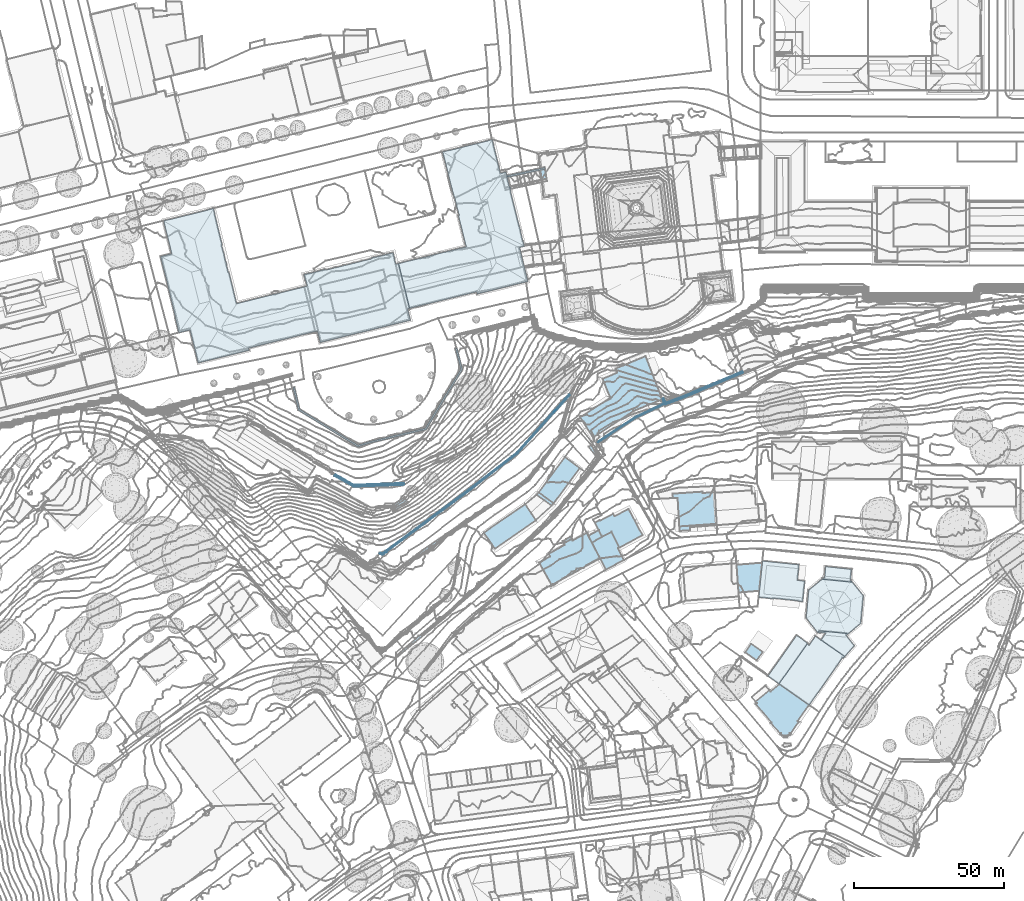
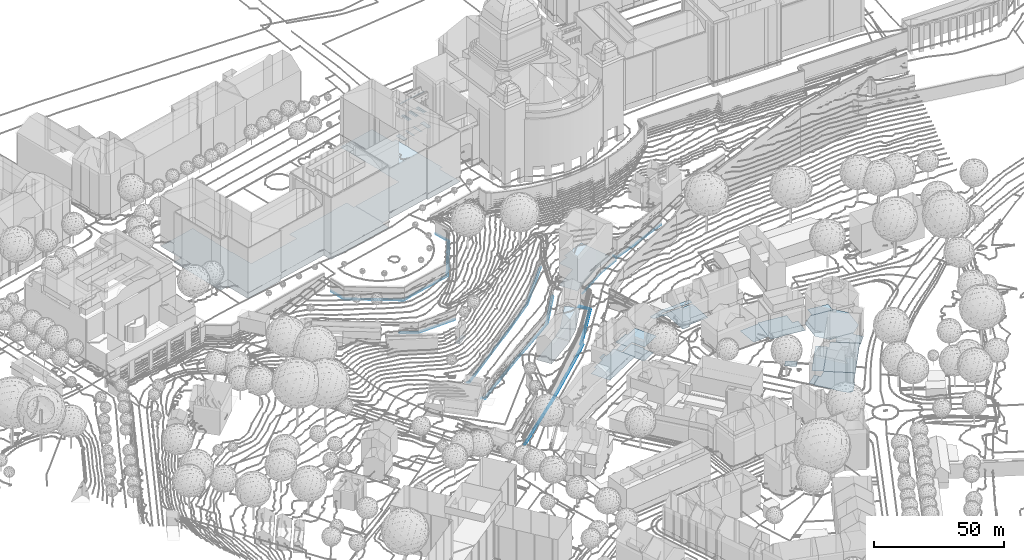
# Not in any storey, part 13 of 494: 21 footings.
"""IFC2X3 model written with IfcOpenShell, lengths in metres."""

from ifc_helpers import new_model, si_unit, frame, origin_with_axes, place, context, subcontext, project, faceted_brep, element, save


model = new_model("IFC2X3")

# Units and contexts
model_context = context("Model", 3, precision=1e-05, world=origin_with_axes())
body_context = subcontext(model_context, "Body", "Model", "MODEL_VIEW")
ifc_project = project(units=[si_unit("AREAUNIT", "SQUARE_METRE"), si_unit("LENGTHUNIT", "METRE")], contexts=[model_context])

# Footings
footing_1_placement = place(None, frame((211.8297320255, 101.9383160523, 526.7541), z_axis=(0.0, 0.0, 1.0), x_axis=(1.0, 0.0, 0.0)))
element("IfcFooting", 1, at=footing_1_placement, Name="Floor 0", PredefinedType="STRIP_FOOTING", context=body_context, shape_type="Brep", body=[
    faceted_brep([(280.5030000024, 297.0234000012, 13.395), (282.3080000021, 292.683600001, 13.395), (281.4759999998, 292.504900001, 13.395), (281.3340000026, 297.2021000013, 13.395), (286.9020000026, 298.4032999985, 21.7082), (287.2400000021, 293.7509999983, 21.7082), (286.268000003, 298.2666000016, 21.7082), (287.875, 293.8887000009, 21.7082), (285.6960000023, 298.1435000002, 21.4603), (286.6689999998, 293.6268999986, 21.4603), (287.4730000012, 298.5263999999, 21.4603), (288.4460000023, 294.0126999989, 21.4603), (288.0100000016, 298.6425999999, 13.395), (290.6510000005, 294.4814000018, 13.395), (288.9840000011, 294.1220999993, 13.395), (289.932, 299.0555999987, 13.395), (279.9660000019, 296.9081999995, 21.4603), (280.3690000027, 292.2646000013, 21.7082), (279.3949999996, 296.7842000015, 21.7082), (280.9409999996, 292.3887000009, 21.4603), (279.7349999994, 292.1268999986, 21.7082), (278.7609999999, 296.6484000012, 21.7082), (279.1630000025, 292.003899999, 21.4603), (278.1889999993, 296.5243999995, 21.4603), (275.5940000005, 295.9657999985, 13.395), (277.6540000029, 296.4092000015, 13.395), (276.6600000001, 292.2723999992, 13.395), (278.6270000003, 291.8905999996, 13.395), (276.8790000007, 291.5137000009, 13.395), (283.0760000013, 297.5780999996, 21.7082), (284.0490000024, 293.0604999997, 21.7082), (282.4409999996, 297.441399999, 21.7082), (283.4160000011, 292.9237999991, 21.7082), (282.8450000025, 292.8007999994, 21.4603), (281.8709999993, 297.3183000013, 21.4603), (283.6469999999, 297.7012000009, 21.4603), (284.6209999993, 293.1845999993, 21.4603), (284.1840000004, 297.817400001, 13.395), (286.1339999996, 293.5088, 13.395), (285.1579999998, 293.2978000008, 13.395), (285.1590000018, 298.0273000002, 13.395)], [[[0, 1, 2]], [[1, 0, 3]], [[4, 5, 6]], [[5, 4, 7]], [[6, 5, 8]], [[9, 8, 5]], [[10, 7, 4]], [[7, 10, 11]], [[12, 13, 14]], [[13, 12, 15]], [[16, 17, 18]], [[17, 16, 19]], [[18, 20, 21]], [[20, 18, 17]], [[21, 22, 23]], [[22, 21, 20]], [[24, 25, 26]], [[27, 28, 26]], [[26, 25, 27]], [[29, 30, 31]], [[32, 31, 30]], [[31, 33, 34]], [[33, 31, 32]], [[35, 30, 29]], [[30, 35, 36]], [[37, 38, 39]], [[38, 37, 40]]]),
])
footing_2_placement = place(None, frame((211.8297320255, 101.9383160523, 526.7541), z_axis=(0.0, 0.0, 1.0), x_axis=(1.0, 0.0, 0.0)))
element("IfcFooting", 2, at=footing_2_placement, Name="Floor 4", PredefinedType="STRIP_FOOTING", context=body_context, shape_type="Brep", body=[
    faceted_brep([(284.7970000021, 194.6561999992, -16.5874), (284.3350000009, 195.1387000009, -16.5874), (295.9990000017, 209.7382999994, -16.5874), (276.4550000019, 188.9882999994, -16.5874), (295.4700000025, 210.1308000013, -16.5874), (261.8630000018, 179.3418000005, -16.5874), (261.4940000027, 179.8867000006, -16.5874), (276.0890000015, 189.5351000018, -16.5874), (246.1209999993, 169.2197000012, -16.5874), (246.507000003, 168.6854999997, -16.5874), (238.7470000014, 162.8436999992, -16.5874), (238.8200000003, 163.7226000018, -16.5874), (237.4409999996, 164.2217000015, -16.5874), (237.9189999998, 164.6748000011, -16.5874)], [[[0, 1, 2]], [[0, 3, 1]], [[1, 4, 2]], [[5, 6, 7]], [[7, 3, 5]], [[3, 7, 1]], [[8, 6, 9]], [[9, 10, 8]], [[11, 12, 13]], [[12, 11, 10]], [[8, 10, 11]], [[5, 9, 6]]]),
])
footing_3_placement = place(None, frame((211.8297320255, 101.9383160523, 526.7541), z_axis=(0.0, 0.0, 1.0), x_axis=(1.0, 0.0, 0.0)))
element("IfcFooting", 3, at=footing_3_placement, Name="Floor 5", PredefinedType="STRIP_FOOTING", context=body_context, shape_type="Brep", body=[
    faceted_brep([(266.4130000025, 158.3603000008, -22.4069), (277.0140000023, 168.0282999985, -22.4069), (266.8460000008, 157.8671999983, -22.4069), (287.8159999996, 177.9228000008, -22.4069), (288.2660000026, 177.4453000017, -22.4069), (277.4560000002, 167.5439000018, -22.4069), (293.1660000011, 183.120099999, -22.4069), (240.4620000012, 136.3828000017, -22.4069), (254.4750000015, 148.25, -22.4069), (240.8580000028, 135.8594000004, -22.4069), (254.8990000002, 147.7490000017, -22.4069), (308.4230000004, 202.2080000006, -22.4068), (307.4979999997, 202.1981999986, -22.4068), (305.4220000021, 206.5194999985, -22.4068), (299.9330000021, 191.4316000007, -22.4068), (299.4210000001, 191.8407999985, -22.4068), (304.5190000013, 205.878899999, -22.4068), (292.7030000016, 183.5439000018, -22.4069), (293.6009999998, 183.6112999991, -22.4069), (294.1209999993, 183.1347000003, -22.4069)], [[[0, 1, 2]], [[3, 4, 5]], [[5, 1, 3]], [[3, 6, 4]], [[1, 5, 2]], [[7, 8, 9]], [[10, 8, 0]], [[0, 2, 10]], [[10, 9, 8]], [[11, 12, 13]], [[12, 14, 15]], [[12, 16, 13]], [[12, 11, 14]], [[17, 18, 6]], [[17, 15, 18]], [[19, 6, 18]], [[14, 18, 15]], [[19, 4, 6]]]),
])
footing_4_placement = place(None, frame((211.8297320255, 101.9383160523, 526.7541), z_axis=(0.0, 0.0, 1.0), x_axis=(1.0, 0.0, 0.0)))
element("IfcFooting", 4, at=footing_4_placement, Name="Floor 7", PredefinedType="STRIP_FOOTING", context=body_context, shape_type="Brep", body=[
    faceted_brep([(320.1950000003, 215.5537, -18.1852), (307.6610000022, 207.3280999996, -18.1852), (307.4640000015, 207.6141999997, -18.1852), (320.0240000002, 215.8564000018, -18.1852), (329.7860000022, 220.5009999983, -18.1852), (329.9350000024, 220.1884999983, -18.1852), (329.8200000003, 220.1338, -16.7574), (329.9350000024, 220.1884999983, -16.7574), (329.9260000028, 219.8671999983, -16.7574), (336.6920000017, 222.4492000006, -16.7574), (336.4900000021, 222.9530999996, -16.7574), (345.7250000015, 226.2470999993, -16.7574), (345.5150000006, 226.7470999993, -16.7574), (356.0329999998, 230.5771000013, -16.7574), (330.2320000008, 220.5643999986, -16.7574), (329.1080000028, 221.9189000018, -16.7574), (329.7860000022, 220.5009999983, -16.7574), (329.6909999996, 220.4560000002, -16.7574), (329.6119999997, 222.120099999, -16.7574), (355.8230000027, 231.0771000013, -16.7574)], [[[0, 1, 2]], [[2, 3, 0]], [[4, 5, 0]], [[0, 3, 4]], [[6, 7, 8]], [[7, 9, 8]], [[9, 10, 11]], [[11, 10, 12]], [[12, 13, 11]], [[7, 10, 9]], [[14, 10, 7]], [[15, 16, 17]], [[15, 18, 16]], [[14, 7, 16]], [[14, 16, 18]], [[19, 13, 12]]]),
])
footing_5_placement = place(None, frame((211.8297320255, 101.9383160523, 526.7541), z_axis=(0.0, 0.0, 1.0), x_axis=(1.0, 0.0, 0.0)))
element("IfcFooting", 5, at=footing_5_placement, Name="Floor 9", PredefinedType="STRIP_FOOTING", context=body_context, shape_type="Brep", body=[
    faceted_brep([(265.126000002, 191.5458999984, -11.8918), (280.6090000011, 204.1055000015, -11.8918), (280.9480000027, 203.7412, -11.8918), (297.9340000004, 223.4833999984, -11.8918), (298.3029999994, 223.1532999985, -11.8918), (264.8280000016, 191.9404000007, -11.8918), (234.7090000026, 170.1854999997, -11.8918), (235.6860000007, 170.3574000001, -11.8918), (235.7670000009, 169.8007999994, -11.8918), (234.8790000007, 170.6504000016, -11.8918)], [[[0, 1, 2]], [[3, 4, 2]], [[2, 1, 3]], [[0, 5, 1]], [[6, 7, 8]], [[5, 8, 7]], [[7, 6, 9]], [[5, 0, 8]]]),
])
footing_6_placement = place(None, frame((211.8297320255, 101.9383160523, 526.7541), z_axis=(0.0, 0.0, 1.0), x_axis=(1.0, 0.0, 0.0)))
element("IfcFooting", 6, at=footing_6_placement, Name="Floor 21", PredefinedType="STRIP_FOOTING", context=body_context, shape_type="Brep", body=[
    faceted_brep([(243.0360000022, 193.1904000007, 0.835), (226.2320000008, 193.1942999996, 0.835), (243.0140000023, 193.7958999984, 0.835), (226.0840000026, 192.5819999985, 0.835), (219.6790000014, 196.1660000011, 0.835), (219.9750000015, 196.6953000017, 0.835)], [[[0, 1, 2]], [[0, 3, 1]], [[4, 5, 1]], [[1, 3, 4]]]),
])
footing_7_placement = place(None, frame((211.8297320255, 101.9383160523, 526.7541), z_axis=(0.0, 0.0, 1.0), x_axis=(1.0, 0.0, 0.0)))
element("IfcFooting", 7, at=footing_7_placement, Name="Floor 23", PredefinedType="STRIP_FOOTING", context=body_context, shape_type="Brep", body=[
    faceted_brep([(250.3399999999, 211.5986000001, 7.5874), (249.9810000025, 212.0956999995, 7.5874), (255.6390000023, 220.4023000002, 7.5874), (246.5879999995, 210.7558000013, 7.5874), (246.4610000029, 211.3057000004, 7.5874), (238.7939999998, 209.4706999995, 7.5874), (255.1559999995, 220.6933000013, 7.5874), (261.8560000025, 231.7558000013, 7.5874), (262.4620000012, 231.6669999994, 7.5874), (260.0400000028, 238.6777000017, 7.5874), (260.5860000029, 238.8203000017, 7.5874), (227.5439999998, 205.8671999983, 7.5874), (227.620000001, 206.4824000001, 7.5874), (231.375, 207.0731999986, 7.5874), (207.700000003, 218.0762000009, 7.5874), (208.1950000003, 218.4345999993, 7.5874), (205.9340000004, 225.5936999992, 7.5874), (231.2230000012, 207.6162, 7.5874), (238.9260000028, 208.9228000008, 7.5874), (206.4830000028, 225.7226000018, 7.5874)], [[[0, 1, 2]], [[0, 3, 1]], [[1, 3, 4]], [[3, 5, 4]], [[1, 6, 2]], [[2, 7, 8]], [[9, 10, 7]], [[2, 6, 7]], [[10, 8, 7]], [[11, 12, 13]], [[14, 15, 12]], [[12, 11, 14]], [[14, 16, 15]], [[12, 17, 13]], [[5, 3, 18]], [[13, 5, 18]], [[15, 16, 19]], [[17, 5, 13]]]),
])
footing_8_placement = place(None, frame((450.1807320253, 287.7430160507, 522.8345), z_axis=(0.0, 0.0, 1.0), x_axis=(1.0, 0.0, 0.0)))
element("IfcFooting", 8, at=footing_8_placement, Name="Floor 0", PredefinedType="STRIP_FOOTING", context=body_context, shape_type="Brep", body=[
    faceted_brep([(5.8729999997, 1.6406000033, 0.0), (0.0, 0.0, 0.0), (4.745000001, 3.2754000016, 0.0), (1.120000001, -1.6415999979, 0.0)], [[[0, 1, 2]], [[1, 0, 3]]]),
])
footing_9_placement = place(None, frame((495.292732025, 288.7264160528, 509.5088), z_axis=(0.0, 0.0, 1.0), x_axis=(1.0, 0.0, 0.0)))
element("IfcFooting", 9, at=footing_9_placement, Name="Floor 0", PredefinedType="STRIP_FOOTING", context=body_context, shape_type="Brep", body=[
    faceted_brep([(18.0950000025, 11.9628999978, 0.033), (6.9270000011, 1.9765000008, 0.033), (13.1390000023, 15.6396000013, 0.033), (4.3840000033, 3.8319999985, 0.033), (9.3670000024, 0.1933000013, 0.033), (3.4780000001, -5.3946000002, 0.0), (4.3840000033, 3.8319999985, 0.0), (9.0329999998, -0.2578000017, 0.0), (9.3670000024, 0.1933000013, 0.0), (0.0, 0.0, 0.0), (4.1290000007, 3.4891999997, 0.0)], [[[0, 1, 2]], [[3, 2, 1]], [[1, 0, 4]], [[5, 6, 7]], [[8, 7, 6]], [[5, 9, 10]], [[6, 5, 10]]]),
])
footing_10_placement = place(None, frame((481.4457320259, 279.2078160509, 509.1578), z_axis=(0.0, 0.0, 1.0), x_axis=(1.0, 0.0, 0.0)))
element("IfcFooting", 10, at=footing_10_placement, Name="Floor 0", PredefinedType="STRIP_FOOTING", context=body_context, shape_type="Brep", body=[
    faceted_brep([(17.3249999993, 4.1240000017, 0.0), (3.6920000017, -5.3563999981, 0.0), (15.6600000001, 6.7061000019, 0.0), (13.8469999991, 9.5186000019, 0.0), (0.0, 0.0, 0.0)], [[[0, 1, 2]], [[3, 1, 4]], [[3, 2, 1]]]),
])
footing_11_placement = place(None, frame((499.9197320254, 269.244916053, 502.2044), z_axis=(0.0, 0.0, 1.0), x_axis=(1.0, 0.0, 0.0)))
element("IfcFooting", 11, at=footing_11_placement, Name="Floor 0", PredefinedType="STRIP_FOOTING", context=body_context, shape_type="Brep", body=[
    faceted_brep([(10.8530000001, 7.808600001, 0.4), (9.9110000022, 8.2831999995, 0.4), (10.4600000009, 8.5225000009, 0.4), (10.3330000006, 8.5137000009, 0.4), (8.9860000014, 7.7753999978, 0.4), (7.7820000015, 7.0273999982, 0.4), (7.8949999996, 7.1777999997, 0.4), (8.1720000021, 6.3427999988, 0.4), (17.8159999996, 6.1415999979, 0.0), (18.7440000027, 4.3603999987, 0.0), (3.6400000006, 1.9873000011, 0.0), (8.4600000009, 5.8359999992, 0.0), (16.3690000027, 8.9219000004, 0.0), (20.3120000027, 1.3476999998, 0.0), (4.5670000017, -7.2655999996, 0.0), (16.5360000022, 9.0126999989, 0.0), (16.0329999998, 9.9794999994, 0.0), (11.1229999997, 7.3193999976, 0.0), (10.8540000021, 7.808600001, 0.0), (8.1720000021, 6.3427999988, 0.0), (4.0800000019, -7.3993999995, 0.0), (4.2060000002, -7.6269000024, 0.0), (4.6339999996, -7.3885999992, 0.0), (3.3520000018, 2.5077999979, 0.0), (3.2369999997, 2.9638999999, 0.0), (3.132000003, 2.9063000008, 0.0), (0.0, 0.0, 0.0)], [[[0, 1, 2]], [[1, 3, 2]], [[4, 1, 0]], [[5, 4, 0]], [[4, 5, 6]], [[0, 7, 5]], [[8, 9, 10]], [[11, 12, 10]], [[9, 13, 14]], [[10, 12, 8]], [[15, 12, 16]], [[12, 17, 16]], [[11, 18, 17]], [[19, 18, 11]], [[11, 17, 12]], [[20, 9, 14]], [[21, 14, 22]], [[14, 21, 20]], [[9, 20, 10]], [[11, 23, 24]], [[25, 24, 23]], [[10, 23, 11]], [[26, 10, 20]]]),
])
footing_12_placement = place(None, frame((516.2887320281, 278.1668160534, 502.5014), z_axis=(0.0, 0.0, 1.0), x_axis=(1.0, 0.0, 0.0)))
element("IfcFooting", 12, at=footing_12_placement, Name="Floor 0", PredefinedType="STRIP_FOOTING", context=body_context, shape_type="Brep", body=[
    faceted_brep([(13.4129999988, 8.9375, -0.154), (15.7559999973, 4.5341999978, -0.154), (7.6559999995, 1.2793000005, -0.154), (8.7839999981, 6.4756000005, -0.154), (3.8789999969, 5.0106999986, -0.154), (8.3099999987, 7.3682000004, -0.154), (18.0879999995, 0.1620999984, -0.154), (10.3880000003, -3.9326000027, -0.154), (4.4599999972, -0.0439000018, -0.154), (4.618999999, -0.379900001, -0.154), (3.4849999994, 1.9081999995, -0.154), (3.3990000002, 1.8612999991, -0.154), (2.1789999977, 4.365199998, -0.154), (3.7859999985, 5.1845999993, -0.154), (3.3990000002, 1.8612999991, 0.0), (4.4609999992, -0.0459000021, 0.0), (2.7630000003, 1.5126999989, 0.0), (4.618999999, -0.379900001, 0.0), (1.1769999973, -2.2607000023, 0.0), (0.0, 0.0, 0.0), (8.8449999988, -9.7090000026, -0.8259), (4.1030000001, -0.6621000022, -0.8259), (9.8539999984, -4.2168000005, -0.8259), (11.9019999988, -8.0692999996, -0.8259), (5.8829999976, -11.2988000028, -0.8259), (1.1769999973, -2.2607000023, -0.8259), (7.6559999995, 1.2793000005, -0.8259), (10.3880000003, -3.9326000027, -0.8259)], [[[0, 1, 2]], [[3, 0, 2]], [[2, 4, 3]], [[4, 5, 3]], [[1, 6, 7]], [[2, 1, 7]], [[8, 2, 9]], [[8, 10, 2]], [[8, 11, 10]], [[4, 12, 13]], [[4, 10, 12]], [[2, 10, 4]], [[14, 15, 16]], [[15, 17, 18]], [[19, 15, 18]], [[15, 19, 16]], [[20, 21, 22]], [[23, 20, 22]], [[24, 25, 20]], [[22, 21, 26]], [[22, 26, 27]], [[20, 25, 21]]]),
])
footing_13_placement = place(None, frame((513.5957320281, 317.6404160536, 509.4928), z_axis=(0.0, 0.0, 1.0), x_axis=(1.0, 0.0, 0.0)))
element("IfcFooting", 13, at=footing_13_placement, Name="Floor 0", PredefinedType="STRIP_FOOTING", context=body_context, shape_type="Brep", body=[
    faceted_brep([(21.7850000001, 20.3691999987, 0.0), (20.7049999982, 3.3037, 0.0), (18.0879999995, 2.2460999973, 0.0), (24.5729999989, 4.8662, 0.0), (27.3729999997, 5.9970999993, 0.0), (12.2809999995, 14.8202999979, 0.0), (18.943, 19.1992999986, 0.0), (9.9549999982, 6.7265999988, 0.0), (12.0859999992, 15.2949999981, 0.0), (11.7060000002, 16.2216999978, 0.0), (14.2579999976, 17.2714999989, 0.0), (9.8909999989, 13.8359999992, 0.0), (17.5299999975, 2.0205000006, 0.0), (4.3129999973, -6.7373000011, 0.0), (10.0130000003, 6.5868999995, 0.0), (2.1219999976, -3.3144000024, 0.0), (0.0, 0.0, 0.0), (7.4450000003, 12.8290999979, 0.0), (7.6369999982, 12.9081999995, 0.0)], [[[0, 1, 2]], [[3, 1, 0]], [[0, 4, 3]], [[5, 6, 0]], [[5, 0, 7]], [[8, 9, 10]], [[10, 5, 8]], [[10, 6, 5]], [[7, 11, 5]], [[12, 0, 2]], [[12, 13, 14]], [[14, 13, 15]], [[15, 16, 14]], [[7, 17, 18]], [[11, 7, 18]], [[7, 0, 14]], [[0, 12, 14]]]),
])
footing_14_placement = place(None, frame((539.2757320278, 292.3553160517, 501.0115), z_axis=(0.0, 0.0, 1.0), x_axis=(1.0, 0.0, 0.0)))
element("IfcFooting", 14, at=footing_14_placement, Name="Floor 0", PredefinedType="STRIP_FOOTING", context=body_context, shape_type="Brep", body=[
    faceted_brep([(7.3399999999, -11.1230999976, -0.6799), (10.862999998, -11.3583999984, -0.6799), (7.430999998, -12.6279999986, -0.6799), (19.8090000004, -10.2588, -0.6799), (10.9379999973, -12.3887000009, -0.6799), (19.8339999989, -10.7012000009, -0.6799), (15.112999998, 0.0155999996, 0.0), (15.0810000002, 0.4803999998, 0.0), (19.2049999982, 0.2987999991, 0.0), (16.0590000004, 2.1865000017, 0.0), (19.0889999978, 2.3242000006, 0.0), (11.5989999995, 1.9844000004, 0.0), (0.9129999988, -1.9081999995, 0.0), (5.1039999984, -0.2100000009, 0.0), (5.2049999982, -1.6728999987, 0.0), (0.0, 0.0, 0.0), (6.5359999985, 1.754900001, 0.0), (5.1039999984, -0.2100000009, -0.6719), (6.7630000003, -1.5878999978, -0.6719), (5.2049999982, -1.6728999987, -0.6719), (15.0810000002, 0.4803999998, -0.6719), (7.231999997, -9.3310999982, -0.6719), (19.8090000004, -10.2588, -0.6719), (7.3399999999, -11.1230999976, -0.6719), (7.0599999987, -6.4941999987, -0.6719), (15.112999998, 0.0155999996, -0.6719), (6.8220000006, -2.557599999, -0.6719), (19.2049999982, 0.2987999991, -0.6719), (19.3189999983, -1.692400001, -0.6719), (19.7060000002, -8.4677999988, -0.6719), (19.5439999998, -5.629900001, -0.6719)], [[[0, 1, 2]], [[0, 3, 1]], [[1, 4, 2]], [[1, 3, 5]], [[6, 7, 8]], [[7, 9, 10]], [[10, 8, 7]], [[7, 11, 9]], [[12, 13, 14]], [[12, 15, 13]], [[7, 13, 15]], [[15, 16, 11]], [[7, 15, 11]], [[17, 18, 19]], [[17, 20, 18]], [[21, 22, 23]], [[24, 25, 21]], [[24, 26, 25]], [[25, 26, 18]], [[25, 18, 20]], [[27, 28, 25]], [[21, 29, 22]], [[29, 25, 30]], [[28, 30, 25]], [[21, 25, 29]]]),
])
footing_15_placement = place(None, frame((573.0317320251, 257.6658160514, 499.7226), z_axis=(0.0, 0.0, 1.0), x_axis=(1.0, 0.0, 0.0)))
element("IfcFooting", 15, at=footing_15_placement, Name="Floor 0", PredefinedType="STRIP_FOOTING", context=body_context, shape_type="Brep", body=[
    faceted_brep([(4.8920000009, -0.3202999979, 0.0), (0.0, 0.0, 0.0), (1.2609999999, 12.1338, 0.0), (12.9260000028, 5.6963, 0.0), (4.8740000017, -0.498999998, 0.0), (15.3509999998, 5.4209000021, 0.0), (13.2760000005, -1.1875, 0.0), (13.4410000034, 10.8672000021, 0.0), (14.6590000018, -1.4648000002, 0.0), (13.2630000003, -1.3143999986, 0.0)], [[[0, 1, 2]], [[2, 3, 0]], [[4, 1, 0]], [[5, 6, 3]], [[3, 2, 7]], [[8, 9, 6]], [[6, 5, 8]], [[0, 3, 6]]]),
])
footing_16_placement = place(None, frame((565.6917320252, 268.4637160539, 499.7686), z_axis=(0.0, 0.0, 1.0), x_axis=(1.0, 0.0, 0.0)))
element("IfcFooting", 16, at=footing_16_placement, Name="Floor 0", PredefinedType="STRIP_FOOTING", context=body_context, shape_type="Brep", body=[
    faceted_brep([(8.5320000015, 0.672799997, 0.0), (7.557, -8.7110000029, 0.0), (0.0, 0.0, 0.0), (0.6770000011, -9.25, 0.0)], [[[0, 1, 2]], [[3, 2, 1]]]),
])
footing_17_placement = place(None, frame((568.5307320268, 239.2557160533, 500.0015), z_axis=(0.0, 0.0, 1.0), x_axis=(1.0, 0.0, 0.0)))
element("IfcFooting", 17, at=footing_17_placement, Name="Floor 0", PredefinedType="STRIP_FOOTING", context=body_context, shape_type="Brep", body=[
    faceted_brep([(3.8200000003, -2.7285000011, 0.0), (0.0, 0.0, 0.0), (5.8289999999, 0.1122999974, 0.0), (2.0089999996, 2.8407999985, 0.0)], [[[0, 1, 2]], [[3, 2, 1]]]),
])
footing_18_placement = place(None, frame((576.0807320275, 231.3953160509, 499.9275), z_axis=(0.0, 0.0, 1.0), x_axis=(1.0, 0.0, 0.0)))
element("IfcFooting", 18, at=footing_18_placement, Name="Floor 0", PredefinedType="STRIP_FOOTING", context=body_context, shape_type="Brep", body=[
    faceted_brep([(3.7049999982, -2.6054999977, -0.104), (13.7670000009, 10.3545000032, -0.104), (13.9780000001, -9.4511999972, -0.104), (13.1719999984, 10.7763999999, -0.104), (22.9230000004, 3.3438000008, -0.104), (23.3350000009, 3.8115000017, -0.104), (22.9800000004, 3.3037, -0.104), (14.0350000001, -9.490199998, -0.104), (13.8570000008, -9.7460999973, -0.104), (23.2780000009, 3.8516000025, -0.104), (24.8759999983, 6.1377000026, -0.104), (15.8699999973, 13.3252000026, -0.104), (25.6389999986, 6.5069000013, -0.104), (25.1459999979, 5.9483000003, -0.104), (13.175999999, 11.0420000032, 0.0), (13.0489999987, 10.8633000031, 0.0), (9.5909999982, 13.5888999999, 0.0), (0.0, 0.0, 0.0), (3.7049999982, -2.6054999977, 0.0), (13.1719999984, 10.7763999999, 0.0)], [[[0, 1, 2]], [[0, 3, 1]], [[4, 5, 6]], [[1, 4, 2]], [[2, 7, 8]], [[8, 0, 2]], [[1, 9, 4]], [[10, 1, 11]], [[11, 12, 10]], [[10, 9, 1]], [[4, 9, 5]], [[12, 13, 10]], [[14, 15, 16]], [[15, 17, 16]], [[17, 15, 18]], [[15, 19, 18]]]),
])
footing_19_placement = place(None, frame((588.8407320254, 250.8973160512, 499.7896), z_axis=(0.0, 0.0, 1.0), x_axis=(1.0, 0.0, 0.0)))
element("IfcFooting", 19, at=footing_19_placement, Name="Floor 0", PredefinedType="STRIP_FOOTING", context=body_context, shape_type="Brep", body=[
    faceted_brep([(15.2780000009, 12.0604999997, 0.0), (19.0940000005, 7.3125, 0.0001), (15.2550000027, 11.8242000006, 0.0), (5.3949999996, 12.8047000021, 0.0), (4.3619999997, -4.4081999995, -0.0001), (13.5810000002, -5.2665999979, -0.0001), (0.8520000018, 9.1640000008, 0.0), (5.4030000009, 12.8808000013, 0.0), (0.0, 0.0, 0.0), (18.2330000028, -1.9589999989, 0.0), (13.8210000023, -5.5605999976, -0.0001), (3.882000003, -5.0859999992, -0.0001), (16.0960000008, -9.3554999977, -0.0301), (6.4990000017, -5.1972999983, -0.0301), (13.3599999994, -5.9365999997, -0.0301), (13.5810000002, -5.2665999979, -0.0301), (13.8210000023, -5.5605999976, -0.0301), (12.8790000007, -12.995099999, -0.0301), (3.882000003, -5.0859999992, -0.0301), (4.3619999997, -4.4081999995, -0.0301), (4.7740000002, -5.182599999, -0.0301), (4.8350000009, -4.9814999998, -0.0301), (4.9570000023, -7.4659000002, -0.0301), (15.2550000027, 11.8242000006, -0.02), (14.8020000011, 12.2890000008, -0.02), (15.2780000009, 12.0604999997, -0.02), (15.120000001, 12.2578000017, -0.02), (6.1400000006, 13.1533000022, -0.02), (5.3949999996, 12.8047000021, -0.02), (5.7809999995, 13.1894000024, -0.02), (5.4030000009, 12.8808000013, -0.02), (6.4900000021, 17.0428999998, -0.02), (15.1290000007, 16.1053999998, -0.02)], [[[0, 1, 2]], [[3, 2, 4]], [[5, 2, 1]], [[3, 6, 7]], [[6, 3, 8]], [[4, 8, 3]], [[5, 4, 2]], [[5, 9, 10]], [[8, 4, 11]], [[1, 9, 5]], [[12, 13, 14]], [[14, 15, 16]], [[14, 13, 15]], [[17, 13, 12]], [[18, 19, 20]], [[21, 19, 13]], [[21, 20, 19]], [[19, 15, 13]], [[13, 17, 22]], [[23, 24, 25]], [[26, 25, 24]], [[27, 24, 23]], [[27, 28, 29]], [[30, 29, 28]], [[23, 28, 27]], [[27, 31, 32]], [[32, 24, 27]]]),
])
footing_20_placement = place(None, frame((570.7887320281, 224.3660160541, 500.0575), z_axis=(0.0, 0.0, 1.0), x_axis=(1.0, 0.0, 0.0)))
element("IfcFooting", 20, at=footing_20_placement, Name="Floor 0", PredefinedType="STRIP_FOOTING", context=body_context, shape_type="Brep", body=[
    faceted_brep([(1.2609999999, -1.5058000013, -0.126), (6.2729999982, 1.8329999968, -0.126), (1.7139999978, -2.0459000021, -0.126), (5.8310000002, 2.3525999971, -0.126), (9.0949999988, 4.3544999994, -0.126), (13.7659999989, 1.0693999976, -0.126), (8.936999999, 4.111399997, -0.126), (6.6219999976, -8.5019000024, -0.126), (1.3939999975, -2.3183000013, -0.126), (9.3599999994, -12.067400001, -0.126), (6.4609999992, -8.638600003, -0.126), (9.7079999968, -12.0293000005, -0.126), (9.7410000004, -12.5185000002, -0.126), (10.0209999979, -12.7861000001, -0.126), (12.6329999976, -11.9541000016, -0.126), (15.2189999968, -8.0205000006, -0.126), (19.1490000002, -2.7168000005, -0.126), (18.8530000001, -2.8740000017, -0.126), (13.0130000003, -11.9599000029, -0.126), (12.3819999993, -12.7656000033, -0.126), (12.6719999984, -12.442400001, -0.126), (18.9759999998, -2.9609000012, -0.126), (15.6030000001, -8.2910000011, -0.126), (5.8310000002, 2.3525999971, 0.0), (1.2609999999, -1.5058000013, 0.0), (4.5689999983, 3.8359999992, 0.0), (0.0, 0.0, 0.0), (12.6439999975, -12.0888000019, 0.048), (12.6329999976, -11.9541000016, 0.048), (12.6429999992, -11.9541000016, 0.048), (10.0789999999, -12.7861000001, 0.048), (11.8159999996, -13.3164000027, 0.048), (10.6289999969, -13.3262000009, 0.048), (12.356999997, -12.7656000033, 0.048)], [[[0, 1, 2]], [[0, 3, 1]], [[4, 5, 6]], [[1, 7, 2]], [[1, 6, 5]], [[7, 1, 5]], [[2, 7, 8]], [[7, 9, 10]], [[9, 7, 11]], [[12, 11, 13]], [[11, 14, 13]], [[15, 11, 7]], [[5, 15, 7]], [[16, 17, 5]], [[14, 15, 18]], [[19, 14, 20]], [[13, 14, 19]], [[17, 16, 21]], [[22, 18, 15]], [[15, 5, 17]], [[15, 14, 11]], [[23, 24, 25]], [[26, 25, 24]], [[27, 28, 29]], [[30, 31, 32]], [[31, 30, 33]]]),
])
footing_21_placement = place(None, frame((373.5987320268, 371.2869160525, 536.8784), z_axis=(0.0, 0.0, 1.0), x_axis=(1.0, 0.0, 0.0)))
element("IfcFooting", 21, at=footing_21_placement, Name="Floor 0", PredefinedType="STRIP_FOOTING", context=body_context, shape_type="Brep", body=[
    faceted_brep([(116.4059999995, 23.1083999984, 13.2288), (116.3379999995, 23.0918000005, 13.2288), (116.3040000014, 23.2276000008, 13.2288), (116.550999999, 23.2813000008, 13.2288), (116.7159999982, 22.5117000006, 13.2288), (116.561999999, 22.4785000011, 13.2288), (121.2780000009, 3.4239000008, 0.0439), (120.7749999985, 5.1620999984, 0.0439), (120.8500000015, 5.1719000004, 0.0439), (119.6469999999, 10.0518000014, 0.0439), (120.0170000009, 8.5381000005, 0.0439), (119.5700000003, 10.0322999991, 0.0439), (119.6900000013, 3.0302999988, 0.0439), (119.9479999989, 8.5117999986, 0.0439), (101.8869999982, 3.246100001, 0.0439), (113.324000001, 27.7743999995, 0.0441), (116.7120000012, 21.5782000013, 0.044), (98.7190000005, 16.9912, 0.0439), (99.5309999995, 13.6953000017, 0.0439), (116.3379999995, 23.0918000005, 0.044), (116.4059999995, 23.1083999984, 0.044), (116.7789999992, 21.5967000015, 0.044), (115.1460000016, 28.2050999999, 0.0441), (115.574000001, 26.4706999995, 0.044), (115.5069999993, 26.4541000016, 0.044), (110.5980000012, 39.0088, 0.0441), (110.9750000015, 37.246100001, 0.0441), (108.8660000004, 38.5166000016, 0.0441), (111.0410000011, 37.2666000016, 0.0441), (108.8530000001, 38.5839999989, 0.0441), (122.4990000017, -8.316399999, 0.0438), (105.3570000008, -11.7714999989, 0.0439), (98.8949999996, 16.2657000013, 0.0439), (98.7930000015, 16.246100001, 0.0439), (98.6140000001, 16.9600000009, 0.0439), (99.3159999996, 13.6475000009, 0.0439), (83.0309999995, -17.2782999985, 0.0439), (91.5289999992, 0.6983000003, 0.0439), (79.3449999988, -2.3348999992, 0.0439), (98.0789999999, 19.5478999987, 0.0441), (97.8040000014, 20.2364000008, 0.0441), (95.754999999, 35.2725000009, 0.0441), (95.7369999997, 35.3427999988, 0.0441), (93.9910000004, 34.9111999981, 0.0441), (97.057, 22.7696000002, 0.0441), (94.4970000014, 33.182599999, 0.0441), (97.9789999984, 19.5284000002, 0.0441), (94.4189999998, 33.1651000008, 0.0441), (105.5370000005, -12.4990000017, 0.0439), (115.7430000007, 27.0313000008, 17.5864), (128.2529999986, 29.1319000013, 17.5864), (115.8660000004, 26.4629000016, 17.5864), (128.1629999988, 29.7071000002, 17.5864), (115.5069999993, 26.4541000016, 13.2288), (115.574000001, 26.4706999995, 13.2288), (115.5229999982, 26.3887000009, 13.2288), (115.7430000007, 27.0313000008, 13.2288), (115.8660000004, 26.4629000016, 13.2288), (115.4510000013, 26.9677999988, 13.2288), (82.3779999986, -17.4393999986, -0.0031), (79.3449999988, -2.3348999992, -0.0031), (83.0309999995, -17.2782999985, -0.0031), (67.5949999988, -1.4305999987, -0.0031), (78.4239999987, -2.5643999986, -0.0031), (67.0929999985, -1.5527000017, -0.0031), (64.5260000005, -2.1865000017, -0.0031), (70.6039999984, -0.5498000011, -0.0031), (77.938000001, -0.5830000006, -0.0031), (77.5419999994, 1.3183999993, -0.0031), (78.0109999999, -0.566399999, -0.0031), (70.1629999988, -0.7899999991, -0.0031), (52.2740000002, -24.8632999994, -0.0031), (61.4560000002, -2.9433000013, -0.0031), (57.8920000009, -3.8203000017, -0.0031), (48.879999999, -9.8662, -0.0031), (55.3229999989, -4.4492000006, -0.0031), (64.0229999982, -2.3027000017, -0.0031), (60.9580000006, -3.0654000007, -0.0031), (54.824000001, -4.4598999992, -0.0031), (48.6710000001, -9.0918000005, -0.0001), (58.3869999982, -3.6992000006, -0.0031), (61.4290000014, -2.8436999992, -0.0031), (58.368999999, -3.6053999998, -0.0031), (48.3469999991, -7.8944999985, -0.0031), (49.7030000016, -5.6123000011, -0.0031), (67.561999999, -1.3310000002, -0.0031), (83.3170000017, -21.2402000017, -0.0031), (53.2219999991, -28.6689000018, -0.0031), (64.006000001, -2.2138000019, -0.0031), (64.4990000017, -2.0888000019, -0.0031), (67.0709999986, -1.4550999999, -0.0031), (75.6629999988, 0.7919999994, -0.0031), (75.6510000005, 0.8594000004, -0.0031), (70.5520000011, -0.3955000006, -0.0031), (70.1350000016, -0.691399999, -0.0031), (60.932, -2.9618999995, -0.0031), (57.8669999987, -3.7129000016, -0.0031), (55.2969999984, -4.3535000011, -0.0031), (54.7780000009, -4.2939000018, -0.0031), (49.688000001, -5.5439000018, -0.0031), (47.8020000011, -5.995099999, -0.0031), (29.504999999, -31.2811999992, -0.0001), (12.5229999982, -35.4891999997, -0.0001), (29.3319999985, -30.5546999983, -0.0001), (35.7390000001, -13.1083999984, -0.0001), (51.6810000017, -25.0097000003, -0.0031), (48.2789999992, -7.9043000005, -0.0031), (47.9979999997, -10.0830000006, -0.0031), (25.3680000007, -15.6893999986, -0.0001), (9.8399999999, -24.5126999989, -0.0001), (5.0500000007, -20.6171999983, -0.0001), (6.1000000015, -25.433600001, -0.0001), (4.9239999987, -20.6572000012, -0.0001), (22.6050000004, -5.316399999, -0.0001), (1.1359999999, -4.3847999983, 0.0), (21.9699999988, -2.7479999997, -0.0001), (22.8079999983, -5.2685000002, -0.0001), (21.9010000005, -2.0097000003, -0.0001), (22.074000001, -2.7226000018, -0.0001), (21.1649999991, 0.5273999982, 0.0), (20.9930000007, 1.2373000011, 0.0), (21.2670000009, 0.5507999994, 0.0), (21.8000000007, -2.0331999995, -0.0001), (3.7170000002, 0.932599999, 0.0), (21.0949999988, 1.2646999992, 0.0), (18.0700000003, 14.2949000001, 0.0), (17.993999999, 14.2714999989, 0.0), (17.6409999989, 16.0331999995, 0.0), (20.5650000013, 3.8506000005, 0.0), (20.3539999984, 3.8027999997, 0.0), (15.8880000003, 15.5419999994, 0.0), (2.7839999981, 12.2763999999, 0.0), (1.074000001, -4.4052999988, 0.0), (0.0, 0.0, 0.0), (15.8759999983, 15.6044999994, 0.0), (1.0240000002, 11.9111000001, 0.0), (2.7650000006, 12.3438000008, 0.0)], [[[0, 1, 2]], [[2, 3, 0]], [[4, 5, 0]], [[0, 3, 4]], [[6, 7, 8]], [[9, 10, 11]], [[12, 7, 6]], [[13, 7, 12]], [[14, 11, 12]], [[13, 12, 11]], [[15, 16, 17]], [[10, 13, 11]], [[16, 11, 18]], [[19, 20, 21]], [[16, 19, 21]], [[22, 23, 24]], [[24, 19, 15]], [[25, 26, 27]], [[25, 28, 26]], [[25, 27, 29]], [[26, 15, 27]], [[24, 15, 22]], [[15, 19, 16]], [[30, 31, 12]], [[18, 11, 14]], [[32, 33, 17]], [[33, 34, 17]], [[18, 14, 35]], [[16, 32, 17]], [[36, 37, 31]], [[14, 31, 37]], [[37, 36, 38]], [[12, 31, 14]], [[16, 18, 32]], [[15, 39, 40]], [[27, 15, 41]], [[42, 41, 43]], [[40, 44, 15]], [[17, 39, 15]], [[45, 41, 44]], [[40, 39, 46]], [[47, 43, 45]], [[43, 41, 45]], [[44, 41, 15]], [[30, 48, 31]], [[49, 50, 51]], [[50, 49, 52]], [[53, 54, 55]], [[56, 57, 54]], [[54, 58, 56]], [[57, 55, 54]], [[59, 60, 61]], [[62, 63, 64]], [[63, 59, 65]], [[59, 63, 60]], [[63, 66, 67]], [[67, 68, 69]], [[62, 70, 63]], [[66, 63, 70]], [[71, 72, 59]], [[63, 65, 64]], [[73, 74, 75]], [[76, 65, 59]], [[71, 74, 77]], [[78, 74, 79]], [[59, 72, 76]], [[72, 71, 77]], [[80, 74, 73]], [[72, 77, 81]], [[80, 77, 74]], [[82, 80, 73]], [[83, 84, 79]], [[62, 64, 85]], [[86, 87, 59]], [[88, 65, 76]], [[88, 89, 65]], [[85, 64, 90]], [[68, 91, 92]], [[66, 93, 91]], [[67, 66, 91]], [[67, 91, 68]], [[70, 94, 66]], [[77, 95, 81]], [[73, 96, 82]], [[75, 78, 97]], [[98, 78, 84]], [[99, 84, 100]], [[74, 78, 75]], [[84, 78, 79]], [[83, 100, 84]], [[59, 87, 71]], [[101, 102, 103]], [[103, 104, 105]], [[100, 83, 106]], [[107, 71, 105]], [[105, 104, 107]], [[107, 74, 71]], [[108, 104, 103]], [[108, 109, 110]], [[103, 109, 108]], [[111, 110, 109]], [[102, 109, 103]], [[110, 111, 112]], [[113, 114, 115]], [[116, 108, 113]], [[114, 113, 110]], [[110, 113, 108]], [[115, 117, 118]], [[119, 120, 121]], [[122, 114, 119]], [[119, 123, 120]], [[115, 122, 117]], [[120, 124, 121]], [[125, 126, 127]], [[128, 129, 126]], [[126, 130, 127]], [[126, 123, 131]], [[120, 123, 129]], [[132, 133, 114]], [[122, 115, 114]], [[133, 123, 114]], [[114, 123, 119]], [[127, 130, 134]], [[135, 136, 131]], [[131, 123, 135]], [[131, 130, 126]], [[129, 123, 126]]]),
])

save(model, "model.ifc")
